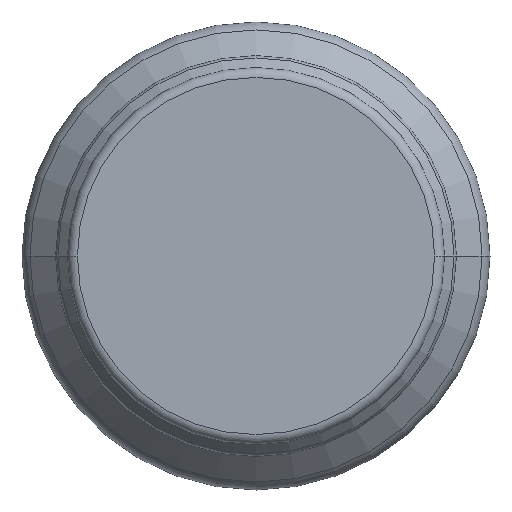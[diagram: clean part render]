
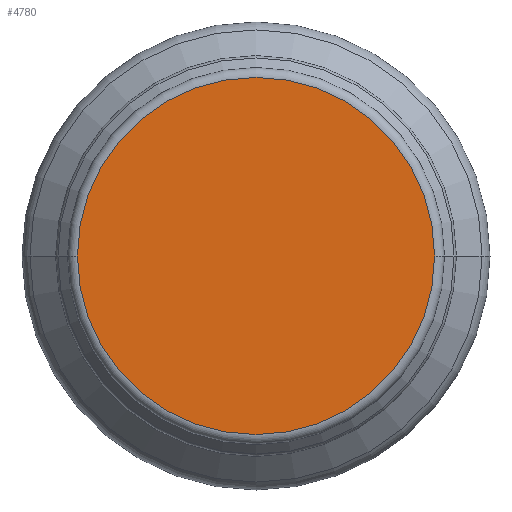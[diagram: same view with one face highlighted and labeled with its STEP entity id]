
A CAD part, left-side view. The second image highlights one B-rep face of the part: STEP entity #4780.
In plain terms, the highlighted planar face has unit normal (-1, 0, 0).
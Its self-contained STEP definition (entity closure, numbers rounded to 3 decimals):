
#550=CARTESIAN_POINT('',(-8.,36.05,0.));
#560=VERTEX_POINT('',#550);
#590=CARTESIAN_POINT('',(-8.,0.,0.));
#600=DIRECTION('',(1.,0.,0.));
#610=DIRECTION('',(0.,-1.,0.));
#620=AXIS2_PLACEMENT_3D('',#590,#600,#610);
#630=CIRCLE('',#620,36.05);
#640=CARTESIAN_POINT('',(-8.,-36.05,0.));
#650=VERTEX_POINT('',#640);
#660=EDGE_CURVE('',#650,#560,#630,.T.);
#4680=CARTESIAN_POINT('',(-8.,19.025,0.));
#4690=DIRECTION('',(1.,0.,0.));
#4700=DIRECTION('',(0.,-1.,0.));
#4710=AXIS2_PLACEMENT_3D('',#4680,#4690,#4700);
#4720=PLANE('',#4710);
#4730=EDGE_CURVE('',#560,#650,#630,.T.);
#4740=ORIENTED_EDGE('',*,*,#4730,.F.);
#4750=ORIENTED_EDGE('',*,*,#660,.F.);
#4760=EDGE_LOOP('',(#4750,#4740));
#4770=FACE_OUTER_BOUND('',#4760,.T.);
#4780=ADVANCED_FACE('',(#4770),#4720,.F.);
